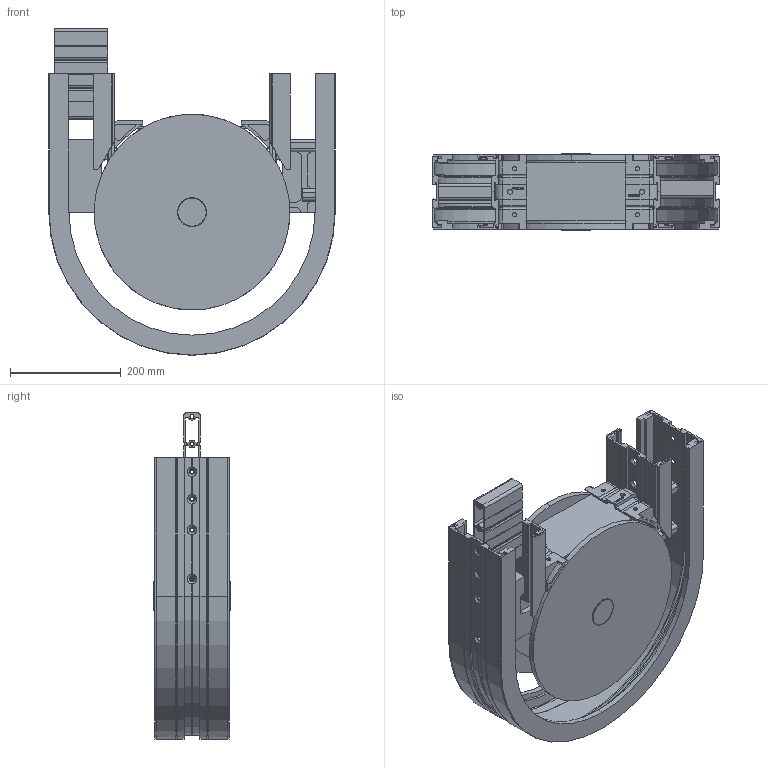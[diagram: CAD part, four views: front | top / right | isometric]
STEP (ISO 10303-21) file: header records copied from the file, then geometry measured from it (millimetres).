
FILE_DESCRIPTION (( 'STEP AP203' ), '1' );
FILE_NAME ('R3C200-180.STEP', '2009-01-13T08:24:08', ( 'faber' ), ( '' ), 'SwSTEP 2.0', 'SolidWorks 2008', '' );
FILE_SCHEMA (( 'CONFIG_CONTROL_DESIGN' ));
Length unit declared in the file: millimetre
Products named in the file (1): R3C200-180
Bounding box: 518 x 139 x 590.75 mm (x, y, z)
Surface area: 1575798.3 mm2 (no closed solid volume)
Topology: 0 solids, 160 shells, 1076 faces, 4022 edges, 3014 vertices
Faces by surface type: plane 623, cylinder 314, torus 98, cone 33, bspline 8
Entity records: 47029 total; most frequent: CARTESIAN_POINT 14371, DIRECTION 6548, ORIENTED_EDGE 5997, EDGE_CURVE 4022, VERTEX_POINT 3014, LINE 2202, VECTOR 2202, AXIS2_PLACEMENT_3D 2173
